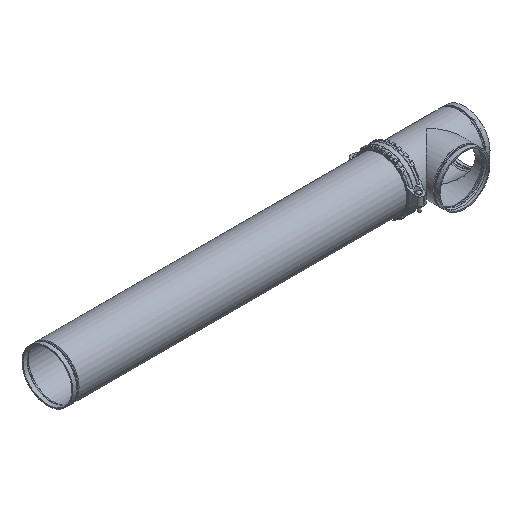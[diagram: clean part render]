
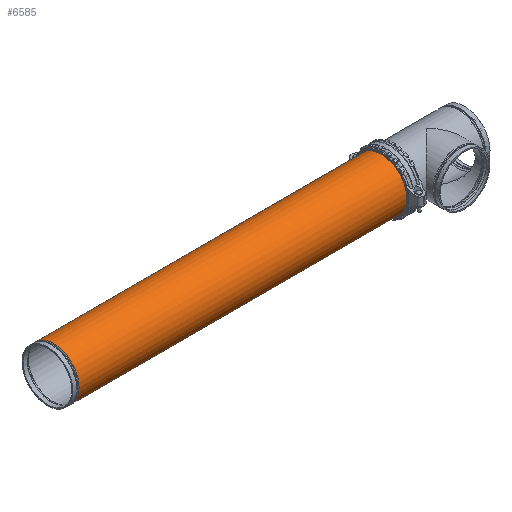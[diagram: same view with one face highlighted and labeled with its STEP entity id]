
A CAD part, isometric view. The second image highlights one B-rep face of the part: STEP entity #6585.
In plain terms, the highlighted cylindrical face has radius 228.6 mm (diameter 457.2 mm), a full revolution.
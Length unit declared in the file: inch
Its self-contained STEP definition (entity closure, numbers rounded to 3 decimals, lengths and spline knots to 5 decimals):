
#310=LINE('',#9818,#690);
#690=VECTOR('',#7874,9.);
#1069=CYLINDRICAL_SURFACE('',#7047,9.);
#1261=FACE_OUTER_BOUND('',#1603,.T.);
#1603=EDGE_LOOP('',(#4145,#4146,#4147,#4148,#4149,#4150));
#1979=CIRCLE('',#7045,9.);
#1980=CIRCLE('',#7046,9.);
#1981=CIRCLE('',#7048,9.);
#1982=CIRCLE('',#7049,9.);
#2408=VERTEX_POINT('',#9808);
#2409=VERTEX_POINT('',#9809);
#2410=VERTEX_POINT('',#9814);
#2411=VERTEX_POINT('',#9815);
#3109=EDGE_CURVE('',#2408,#2409,#1979,.T.);
#3110=EDGE_CURVE('',#2409,#2408,#1980,.T.);
#3112=EDGE_CURVE('',#2410,#2411,#1981,.T.);
#3113=EDGE_CURVE('',#2411,#2410,#1982,.T.);
#3114=EDGE_CURVE('',#2411,#2409,#310,.T.);
#4145=ORIENTED_EDGE('',*,*,#3112,.F.);
#4146=ORIENTED_EDGE('',*,*,#3113,.F.);
#4147=ORIENTED_EDGE('',*,*,#3114,.T.);
#4148=ORIENTED_EDGE('',*,*,#3110,.T.);
#4149=ORIENTED_EDGE('',*,*,#3109,.T.);
#4150=ORIENTED_EDGE('',*,*,#3114,.F.);
#6585=ADVANCED_FACE('',(#1261),#1069,.T.);
#7045=AXIS2_PLACEMENT_3D('',#9810,#7863,#7864);
#7046=AXIS2_PLACEMENT_3D('',#9811,#7865,#7866);
#7047=AXIS2_PLACEMENT_3D('',#9813,#7868,#7869);
#7048=AXIS2_PLACEMENT_3D('',#9816,#7870,#7871);
#7049=AXIS2_PLACEMENT_3D('',#9817,#7872,#7873);
#7863=DIRECTION('center_axis',(1.,0.,0.));
#7864=DIRECTION('ref_axis',(0.,1.,0.));
#7865=DIRECTION('center_axis',(1.,0.,0.));
#7866=DIRECTION('ref_axis',(0.,1.,0.));
#7868=DIRECTION('center_axis',(1.,0.,0.));
#7869=DIRECTION('ref_axis',(0.,1.,0.));
#7870=DIRECTION('center_axis',(1.,0.,0.));
#7871=DIRECTION('ref_axis',(0.,1.,0.));
#7872=DIRECTION('center_axis',(1.,0.,0.));
#7873=DIRECTION('ref_axis',(0.,1.,0.));
#7874=DIRECTION('',(-1.,0.,0.));
#9808=CARTESIAN_POINT('',(-57.88023,9.,0.));
#9809=CARTESIAN_POINT('',(-57.88023,-9.,0.));
#9810=CARTESIAN_POINT('Origin',(-57.88023,0.,
0.));
#9811=CARTESIAN_POINT('Origin',(-57.88023,0.,
0.));
#9813=CARTESIAN_POINT('Origin',(0.,0.,
0.));
#9814=CARTESIAN_POINT('',(57.88023,9.,0.));
#9815=CARTESIAN_POINT('',(57.88023,-9.,0.));
#9816=CARTESIAN_POINT('Origin',(57.88023,0.,0.));
#9817=CARTESIAN_POINT('Origin',(57.88023,0.,0.));
#9818=CARTESIAN_POINT('',(0.,-9.,0.));
